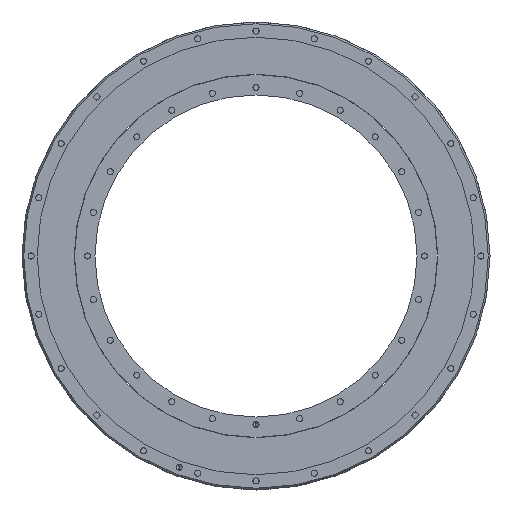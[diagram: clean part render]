
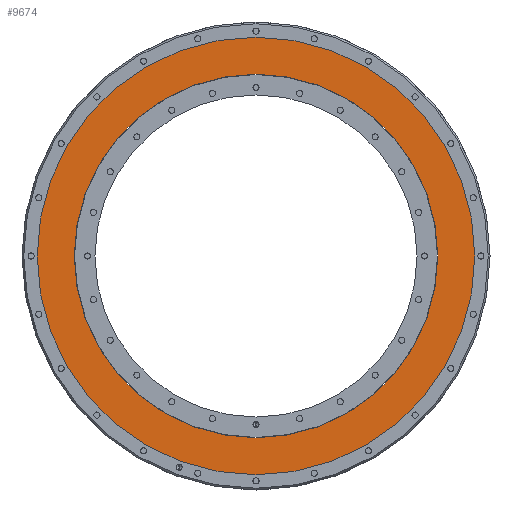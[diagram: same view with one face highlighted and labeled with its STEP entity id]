
A CAD part, front view. The second image highlights one B-rep face of the part: STEP entity #9674.
In plain terms, the highlighted planar face has unit normal (0, -1, 0).
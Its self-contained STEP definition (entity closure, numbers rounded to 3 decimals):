
#120 = CARTESIAN_POINT ( 'NONE',  ( 0., 1., 0. ) ) ;
#195 = EDGE_CURVE ( 'NONE', #7776, #10831, #3434, .T. ) ;
#1020 = AXIS2_PLACEMENT_3D ( 'NONE', #1120, #5617, #7408 ) ;
#1080 = CARTESIAN_POINT ( 'NONE',  ( 0., 1., 0. ) ) ;
#1120 = CARTESIAN_POINT ( 'NONE',  ( 149.5, 1., 0. ) ) ;
#1348 = ORIENTED_EDGE ( 'NONE', *, *, #195, .T. ) ;
#1497 = CARTESIAN_POINT ( 'NONE',  ( 0., 1., -180. ) ) ;
#1547 = VERTEX_POINT ( 'NONE', #10226 ) ;
#1961 = DIRECTION ( 'NONE',  ( 0., -1., 0. ) ) ;
#1990 = DIRECTION ( 'NONE',  ( 0., -1., 0. ) ) ;
#2000 = CIRCLE ( 'NONE', #2801, 180. ) ;
#2106 = AXIS2_PLACEMENT_3D ( 'NONE', #6956, #9627, #7835 ) ;
#2379 = EDGE_LOOP ( 'NONE', ( #10070, #3534 ) ) ;
#2602 = ORIENTED_EDGE ( 'NONE', *, *, #7988, .T. ) ;
#2801 = AXIS2_PLACEMENT_3D ( 'NONE', #1080, #1990, #9156 ) ;
#3434 = CIRCLE ( 'NONE', #2106, 180. ) ;
#3534 = ORIENTED_EDGE ( 'NONE', *, *, #3596, .F. ) ;
#3596 = EDGE_CURVE ( 'NONE', #11610, #1547, #9240, .T. ) ;
#3981 = CARTESIAN_POINT ( 'NONE',  ( 0., 1., 0. ) ) ;
#4605 = FACE_OUTER_BOUND ( 'NONE', #6290, .T. ) ;
#5472 = DIRECTION ( 'NONE',  ( 0., 0., -1. ) ) ;
#5524 = CARTESIAN_POINT ( 'NONE',  ( 0., 1., 149.5 ) ) ;
#5617 = DIRECTION ( 'NONE',  ( 0., -1., 0. ) ) ;
#5739 = DIRECTION ( 'NONE',  ( 0., -1., 0. ) ) ;
#6290 = EDGE_LOOP ( 'NONE', ( #2602, #1348 ) ) ;
#6498 = PLANE ( 'NONE',  #1020 ) ;
#6633 = AXIS2_PLACEMENT_3D ( 'NONE', #120, #1961, #5472 ) ;
#6923 = CIRCLE ( 'NONE', #6633, 149.5 ) ;
#6956 = CARTESIAN_POINT ( 'NONE',  ( 0., 1., 0. ) ) ;
#7408 = DIRECTION ( 'NONE',  ( 0., 0., -1. ) ) ;
#7776 = VERTEX_POINT ( 'NONE', #9118 ) ;
#7835 = DIRECTION ( 'NONE',  ( 0., 0., -1. ) ) ;
#7923 = AXIS2_PLACEMENT_3D ( 'NONE', #3981, #5739, #8445 ) ;
#7988 = EDGE_CURVE ( 'NONE', #10831, #7776, #2000, .T. ) ;
#8076 = EDGE_CURVE ( 'NONE', #1547, #11610, #6923, .T. ) ;
#8445 = DIRECTION ( 'NONE',  ( 0., 0., -1. ) ) ;
#8822 = FACE_BOUND ( 'NONE', #2379, .T. ) ;
#9118 = CARTESIAN_POINT ( 'NONE',  ( 0., 1., 180. ) ) ;
#9156 = DIRECTION ( 'NONE',  ( 0., 0., -1. ) ) ;
#9240 = CIRCLE ( 'NONE', #7923, 149.5 ) ;
#9627 = DIRECTION ( 'NONE',  ( 0., -1., 0. ) ) ;
#9674 = ADVANCED_FACE ( 'NONE', ( #4605, #8822 ), #6498, .T. ) ;
#10070 = ORIENTED_EDGE ( 'NONE', *, *, #8076, .F. ) ;
#10226 = CARTESIAN_POINT ( 'NONE',  ( 0., 1., -149.5 ) ) ;
#10831 = VERTEX_POINT ( 'NONE', #1497 ) ;
#11610 = VERTEX_POINT ( 'NONE', #5524 ) ;
